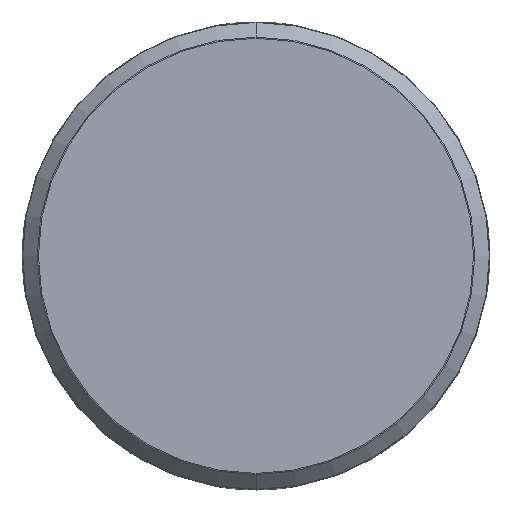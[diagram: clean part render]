
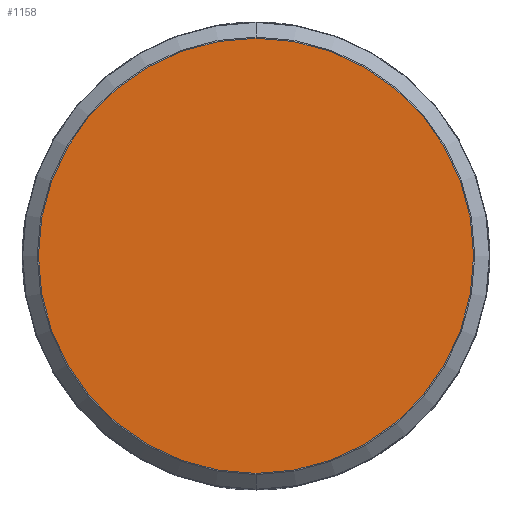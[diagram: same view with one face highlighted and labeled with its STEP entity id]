
A CAD part, top view. The second image highlights one B-rep face of the part: STEP entity #1158.
In plain terms, the highlighted planar face has unit normal (0, 0, 1).
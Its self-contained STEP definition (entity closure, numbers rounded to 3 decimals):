
#26 = PLANE ( 'NONE',  #1045 ) ;
#63 = DIRECTION ( 'NONE',  ( 0., 0., 1. ) ) ;
#78 = CARTESIAN_POINT ( 'NONE',  ( 0., 69.793, 60. ) ) ;
#122 = ORIENTED_EDGE ( 'NONE', *, *, #745, .T. ) ;
#177 = CARTESIAN_POINT ( 'NONE',  ( 0., 0., 60. ) ) ;
#353 = EDGE_CURVE ( 'NONE', #812, #638, #1249, .T. ) ;
#383 = CIRCLE ( 'NONE', #1626, 69.793 ) ;
#532 = DIRECTION ( 'NONE',  ( 0., -1., 0. ) ) ;
#602 = CARTESIAN_POINT ( 'NONE',  ( 0., 70., 60. ) ) ;
#610 = EDGE_LOOP ( 'NONE', ( #122, #771 ) ) ;
#638 = VERTEX_POINT ( 'NONE', #1200 ) ;
#745 = EDGE_CURVE ( 'NONE', #638, #812, #383, .T. ) ;
#749 = FACE_OUTER_BOUND ( 'NONE', #610, .T. ) ;
#758 = DIRECTION ( 'NONE',  ( 0., -1., 0. ) ) ;
#771 = ORIENTED_EDGE ( 'NONE', *, *, #353, .T. ) ;
#790 = DIRECTION ( 'NONE',  ( 0., -1., 0. ) ) ;
#812 = VERTEX_POINT ( 'NONE', #78 ) ;
#952 = AXIS2_PLACEMENT_3D ( 'NONE', #177, #63, #758 ) ;
#973 = CARTESIAN_POINT ( 'NONE',  ( 0., 0., 60. ) ) ;
#1045 = AXIS2_PLACEMENT_3D ( 'NONE', #602, #1515, #532 ) ;
#1158 = ADVANCED_FACE ( 'NONE', ( #749 ), #26, .T. ) ;
#1200 = CARTESIAN_POINT ( 'NONE',  ( 0., -69.793, 60. ) ) ;
#1249 = CIRCLE ( 'NONE', #952, 69.793 ) ;
#1515 = DIRECTION ( 'NONE',  ( 0., 0., 1. ) ) ;
#1626 = AXIS2_PLACEMENT_3D ( 'NONE', #973, #1814, #790 ) ;
#1814 = DIRECTION ( 'NONE',  ( 0., 0., 1. ) ) ;
